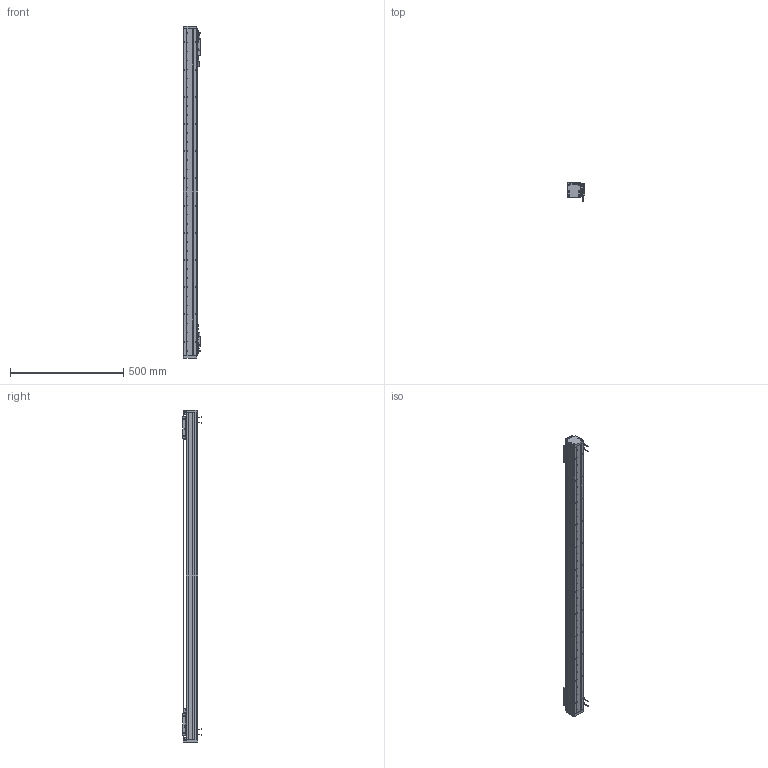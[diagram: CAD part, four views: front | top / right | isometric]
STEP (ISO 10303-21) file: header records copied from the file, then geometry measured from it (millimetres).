
FILE_DESCRIPTION (( 'STEP AP203' ), '1' );
FILE_NAME ('DA-A60-2-B1-T1200-C010-0.2 眻盄萇儂.STEP', '2025-08-13T01:26:27', ( '' ), ( '' ), 'SwSTEP 2.0', 'SolidWorks 2019', '' );
FILE_SCHEMA (( 'CONFIG_CONTROL_DESIGN' ));
Length unit declared in the file: millimetre
Products named in the file (30): 葩璃 AKM01-W030-TRL^DA-A60-2-B1-T60-C010-0.2-N; 葩璃 PM-Y65^DA-A60-2-B1-T60-C010-0.2-N; ｸｴｼ DA60-GYP-ZJ-01 ﾖﾐｼ荵箏邵ﾐﾓｦﾆｬ^DA-A60-2-B1-T60-C010-0.2-N(ﾄｬﾈﾏ); 13679-0000-006-00  钢带压块(默认); AU60-V 幗紩賑怢-1; 13679-0000-004-00 傷啣; ｸｴｼ DA60-DMT-DTJ-ZJ-00 ﾖﾐｼ荼ﾁﾊﾍｷﾖｧｼﾜ^DA-A60-2-B1-T60-C010-0.2-N; AU60-V 幗紩賑怢; DA60-YT-B1-HT-B-01 珨极趙賑雄怢啣; DA60-B1-HT-B-03 賑雄怢啣; DA60-YT-B1-HT-B-01 珨极趙賑雄怢啣-1; 复件 DA60-GT-T-00 底座钢轨^AU60-L 底座导轨; 复件 DA60-B1-GT-00 滑块钢轨^DA60-YT-B1-HT-B-01 一体化滑动台板; AU60-L 菁釱絳寢; 葩璃 XD-U-02  棠掑喜^DA-A60-2-B1-T60-C010-0.2-N; 葩璃 DMT-010 1米m 0.2M^DA-A60-2-B1-T60-C010-0.2-N; 复件 DA60-HC-XJ-01 中间缓冲橡胶^DA-A60-2-B1-T60-C010-0.2-N; IU-AU60-L-00 菁釱(1440); 复件 纯铜油杯 6x6mm^AU60-V 滚珠滑台; 葩璃 PM-T45^DA-A60-2-B1-T60-C010-0.2-N; 葩璃 DA60-DMT-DTJ-00 黍杅芛盓殤^DA-A60-2-B1-T60-C010-0.2-N; DA60嶺詩湍郪璃-T1060; 葩璃 DA60-HK-DP-01 結え^AU60-V 幗紩賑怢; DA60-XJ-00 砎蝶結輸; 13679-0000-005-00 詩湍嶺輸; ｸｴｼ DA-A60-GYP-DMT-00 ｹ箏邵ﾐﾓｦﾆｬ^DA-A60-2-B1-T60-C010-0.2-N(ﾄｬﾈﾏ); ｸｴｼ BAKM01-W030-C1-TP-0.2 ﾖｱﾏﾟｵ扈巐ｯﾗﾓ^DA-A60-2-B1-T60-C010-0.2-N; DA-A60-2-B1-T1200-C010-0.2 眻盄萇儂; DA-A60-GD-1020-00 钢带盖板(默认); 葩璃 鞠褒情蹟譫 M3^DA-A60-2-B1-T60-C010-0.2-N(GB_FASTENER_NUT_STNAB M3-C)
Assembly tree (56 placements, depth 4):
  DA-A60-2-B1-T1200-C010-0.2 眻盄萇儂
    AU60-L 菁釱絳寢
      IU-AU60-L-00 菁釱(1440)
      复件 DA60-GT-T-00 底座钢轨^AU60-L 底座导轨  x2
    AU60-V 幗紩賑怢
      DA60-YT-B1-HT-B-01 珨极趙賑雄怢啣
        DA60-B1-HT-B-03 賑雄怢啣
        复件 DA60-B1-GT-00 滑块钢轨^DA60-YT-B1-HT-B-01 一体化滑动台板  x2
      葩璃 DA60-HK-DP-01 結え^AU60-V 幗紩賑怢  x2
      复件 纯铜油杯 6x6mm^AU60-V 滚珠滑台
    AU60-V 幗紩賑怢-1
      DA60-YT-B1-HT-B-01 珨极趙賑雄怢啣-1
        DA60-B1-HT-B-03 賑雄怢啣
        复件 DA60-B1-GT-00 滑块钢轨^DA60-YT-B1-HT-B-01 一体化滑动台板  x2
      葩璃 DA60-HK-DP-01 結え^AU60-V 幗紩賑怢  x2
      复件 纯铜油杯 6x6mm^AU60-V 滚珠滑台
    DA60嶺詩湍郪璃-T1060
      13679-0000-006-00  钢带压块(默认)  x2
      DA-A60-GD-1020-00 钢带盖板(默认)
      13679-0000-004-00 傷啣  x2
      DA60-XJ-00 砎蝶結輸  x2
      13679-0000-005-00 詩湍嶺輸  x2
    ｸｴｼ DA60-DMT-DTJ-ZJ-00 ﾖﾐｼ荼ﾁﾊﾍｷﾖｧｼﾜ^DA-A60-2-B1-T60-C010-0.2-N
    葩璃 PM-Y65^DA-A60-2-B1-T60-C010-0.2-N
    复件 DA60-HC-XJ-01 中间缓冲橡胶^DA-A60-2-B1-T60-C010-0.2-N  x2
    ｸｴｼ DA60-GYP-ZJ-01 ﾖﾐｼ荵箏邵ﾐﾓｦﾆｬ^DA-A60-2-B1-T60-C010-0.2-N(ﾄｬﾈﾏ)
    ｸｴｼ DA-A60-GYP-DMT-00 ｹ箏邵ﾐﾓｦﾆｬ^DA-A60-2-B1-T60-C010-0.2-N(ﾄｬﾈﾏ)  x2
    葩璃 DA60-DMT-DTJ-00 黍杅芛盓殤^DA-A60-2-B1-T60-C010-0.2-N
    葩璃 DMT-010 1米m 0.2M^DA-A60-2-B1-T60-C010-0.2-N  x2
    ｸｴｼ BAKM01-W030-C1-TP-0.2 ﾖｱﾏﾟｵ扈巐ｯﾗﾓ^DA-A60-2-B1-T60-C010-0.2-N  x2
    葩璃 AKM01-W030-TRL^DA-A60-2-B1-T60-C010-0.2-N
    葩璃 PM-T45^DA-A60-2-B1-T60-C010-0.2-N  x4
    葩璃 XD-U-02  棠掑喜^DA-A60-2-B1-T60-C010-0.2-N
    葩璃 鞠褒情蹟譫 M3^DA-A60-2-B1-T60-C010-0.2-N(GB_FASTENER_NUT_STNAB M3-C)  x8
Bounding box: 76.95 x 80 x 1464 mm (x, y, z)
Volume: 2985420 mm3; surface area: 1074992.7 mm2
Topology: 61 solids, 65 shells, 3198 faces, 8739 edges, 5566 vertices
Faces by surface type: plane 1558, cylinder 1328, cone 280, bspline 22, torus 8, sphere 2
Entity records: 80384 total; most frequent: CARTESIAN_POINT 18802, ORIENTED_EDGE 12324, DIRECTION 11692, EDGE_CURVE 6162, VERTEX_POINT 4012, AXIS2_PLACEMENT_3D 3999, VECTOR 3694, LINE 3694
